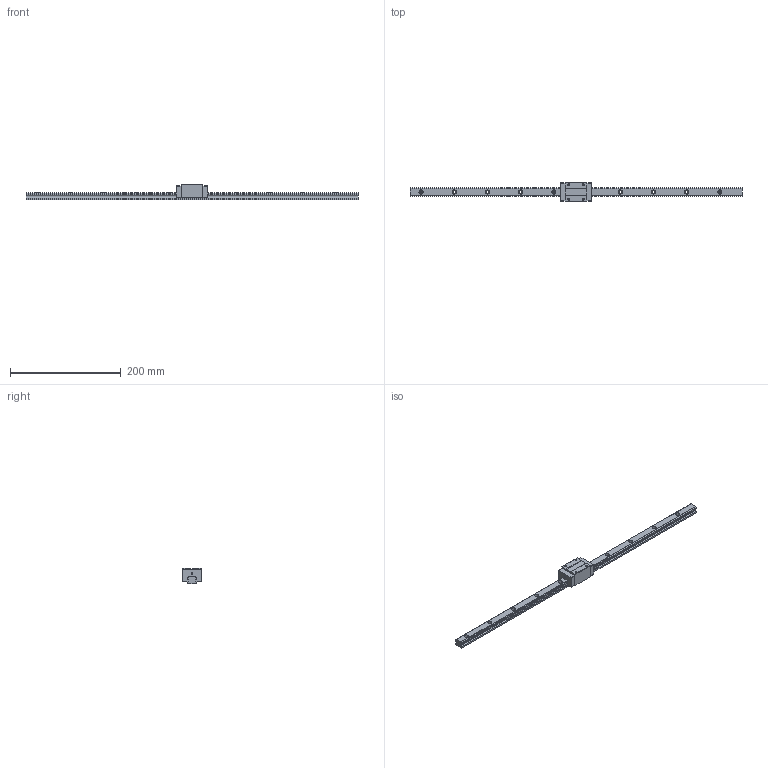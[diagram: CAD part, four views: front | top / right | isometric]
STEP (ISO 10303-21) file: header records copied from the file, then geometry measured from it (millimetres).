
FILE_DESCRIPTION(/* description */ (''),/* implementation_level */ '2;1');
FILE_NAME(/* name */ 'TRH15VN-XN.stp',/* time_stamp */ '2017-10-25T15:06:13+08:00',/* author */ (''),/* organization */ (''),/* preprocessor_version */ 'ST-DEVELOPER v11',/* originating_system */ 'SIEMENS UGS NX 6.0',/* authorisation */ '');
FILE_SCHEMA (('AUTOMOTIVE_DESIGN { 1 0 10303 214 1 1 1 1 }'));
Length unit declared in the file: millimetre
Products named in the file (1): TRH15VN-XN
Bounding box: 600 x 34 x 28 mm (x, y, z)
Volume: 138857.7 mm3; surface area: 46441.5 mm2
Topology: 2 solids, 2 shells, 130 faces, 332 edges, 218 vertices
Faces by surface type: plane 76, cylinder 46, cone 8
Full cylindrical faces by diameter (mm): 3.3 x6, 4.5 x10, 7.5 x10
Entity records: 4218 total; most frequent: DIRECTION 638, CARTESIAN_POINT 615, ORIENTED_EDGE 560, EDGE_CURVE 280, AXIS2_PLACEMENT_3D 227, VERTEX_POINT 204, EDGE_LOOP 196, LINE 184
